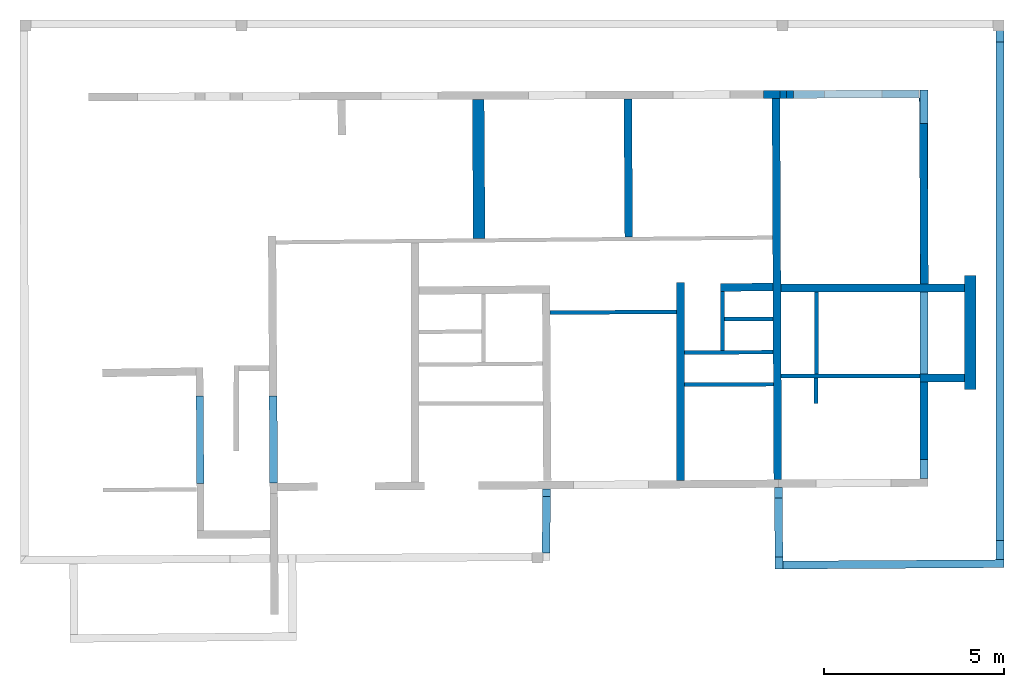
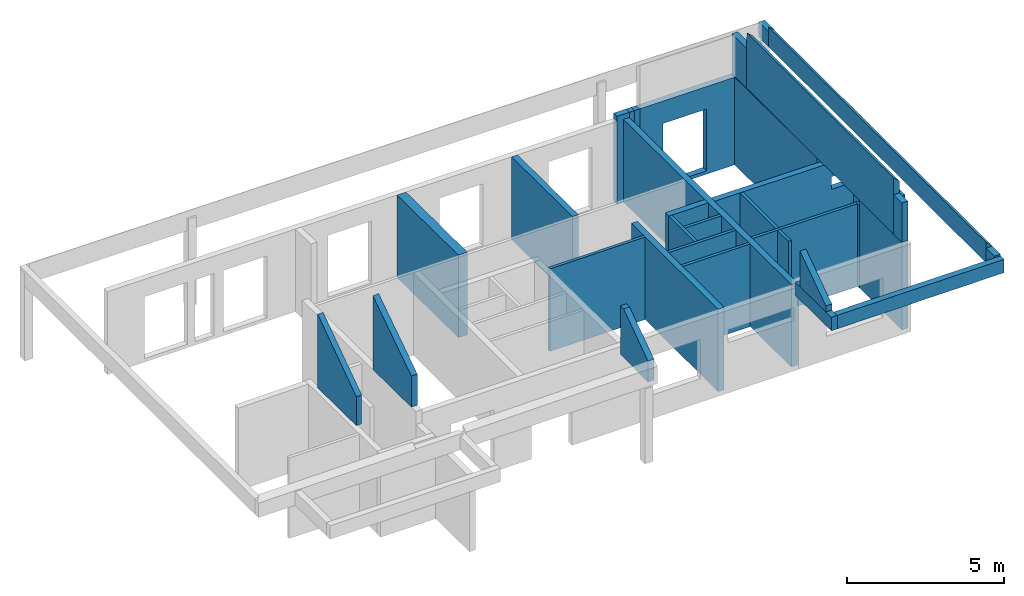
# One storey, part 2 of 3: 34 walls, 4 openings.
"""IFC2X3 building model written with IfcOpenShell, lengths in centimetres."""

from ifc_helpers import new_model, entity, si_unit, converted_unit, direction, frame, frame_2d, origin, origin_2d_with_axis, place, context, subcontext, project, spatial, polyline, rectangle, outline, extrude, clip, halfspace, bounded_halfspace, faceted_brep, material, layer, layer_set, layer_usage, type_object, element, save


model = new_model("IFC2X3")

# Units and contexts
model_context = context("Model", 3, precision=0.001, world=frame((0.0, 0.0, 13090.0)), true_north=direction((6.123233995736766e-17, 1.0)))
body_context = subcontext(model_context, "Body", "Model", "MODEL_VIEW")
ifc_project = project(units=[si_unit("LENGTHUNIT", "METRE", prefix="CENTI"), si_unit("AREAUNIT", "SQUARE_METRE"), si_unit("VOLUMEUNIT", "CUBIC_METRE"), converted_unit("PLANEANGLEUNIT", "DEGREE", entity("IfcPlaneAngleMeasure", 0.017453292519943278), si_unit("PLANEANGLEUNIT", "RADIAN"), dimensions=[0, 0, 0, 0, 0, 0, 0])], contexts=[model_context])

# Site, building, storey
site_placement = place(None, origin())
site = spatial("IfcSite", under=ifc_project, at=site_placement, Name="Default", CompositionType="ELEMENT")
building_placement = place(site_placement, origin())
building = spatial("IfcBuilding", under=site, at=building_placement, Name="e 39 logements et 22 maisons relais", CompositionType="ELEMENT")
storey_placement = place(building_placement, origin())
storey = spatial("IfcBuildingStorey", under=building, at=storey_placement, Name="RDC", CompositionType="ELEMENT", Elevation=0.0)

# Walls
ifc_material = material(Name="Béton - Béton coulé sur place")
ifc_layer_1 = layer(ifc_material, 20.0)
ifc_layer_set_1 = layer_set([ifc_layer_1], Name="Mur de base:BA - 20cm")
wall_type_1 = type_object("IfcWallType", Name="Mur de base:BA - 20cm", PredefinedType="STANDARD", material=ifc_layer_set_1)
wall_1_placement = place(storey_placement, frame((-1005.2895187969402, -553.7673552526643, 340.0), z_axis=(0.0, 0.0, 1.0), x_axis=(-0.006557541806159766, 0.9999784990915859, 0.0)))
element("IfcWall", 1, at=wall_1_placement, inside=storey, type_object=wall_type_1, Name="Mur de base:BA - 20cm", ObjectType="Mur de base:BA - 20cm", context=body_context, shape_type="Brep", body=[
    faceted_brep([(0.005225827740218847, -10.0, 0.0), (242.75768143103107, -10.0, 0.0), (242.75768143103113, -10.0, 285.82953331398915), (0.005225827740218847, -10.0, 112.15266359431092), (0.0, 10.0, 0.0), (0.0, 10.0, 112.1489247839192), (242.75768143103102, 10.0, 285.82953331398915), (242.75768143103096, 10.0, 0.0)], [[[0, 1, 2, 3]], [[4, 5, 6, 7]], [[1, 0, 4, 7]], [[2, 1, 7, 6]], [[3, 2, 6, 5]], [[0, 3, 5, 4]]]),
])
ifc_layer_2 = layer(ifc_material, 22.0)
ifc_layer_set_2 = layer_set([ifc_layer_2], Name="Mur de base:BA - 22cm")
ifc_layer_usage_1 = layer_usage(ifc_layer_set_2, "AXIS2", "POSITIVE", -11.0)
wall_type_2 = type_object("IfcWallType", Name="Mur de base:BA - 22cm", PredefinedType="STANDARD", material=ifc_layer_set_2)
wall_2_placement = place(storey_placement, frame((592.1444161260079, 514.9608615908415, 0.0), z_axis=(0.0, 0.0, 1.0), x_axis=(0.004571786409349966, -0.9999895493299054, 0.0)))
element("IfcWallStandardCase", 2, at=wall_2_placement, inside=storey, type_object=wall_type_2, material=ifc_layer_usage_1, Name="Mur de base:BA - 22cm", ObjectType="Mur de base:BA - 22cm", context=body_context, shape_type="SweptSolid", body=[
    extrude(outline(polyline([(1058.0544231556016, -11.0), (1058.029076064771, 1.7642412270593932), (1058.0107357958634, 11.0), (776.1411497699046, 11.0), (765.1410348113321, 11.0), (537.3363198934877, 11.0), (515.3360899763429, 11.0), (0.016871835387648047, 11.0), (0.0, -11.0), (380.6598510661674, -11.0), (391.65999482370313, -11.0), (512.5179999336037, -11.0), (534.5180433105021, -11.0), (606.8904271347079, -11.0), (617.8904760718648, -11.0), (698.7672502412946, -11.0), (709.767299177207, -11.0), (787.6855359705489, -11.0), (798.6855849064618, -11.0), (1058.0544231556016, -11.0)])), origin(), (0.0, 0.0, 1.0), 320.0),
])
ifc_layer_usage_2 = layer_usage(ifc_layer_set_2, "AXIS2", "NEGATIVE", 11.0)
wall_3_placement = place(storey_placement, frame((326.93676743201, -544.9036630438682, 0.0), z_axis=(0.0, 0.0, 1.0), x_axis=(0.0, 1.0, 0.0)))
element("IfcWallStandardCase", 3, at=wall_3_placement, inside=storey, type_object=wall_type_2, material=ifc_layer_usage_2, Name="Mur de base:BA - 22cm", ObjectType="Mur de base:BA - 22cm", context=body_context, shape_type="SweptSolid", body=[
    extrude(outline(polyline([(549.5182925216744, -11.0), (549.5182925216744, 11.0), (473.1159052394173, 11.0), (462.11566872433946, 11.0), (0.0, 11.0), (0.14426902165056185, -11.0), (260.7447495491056, -11.0), (271.74476343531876, -11.0), (349.66275195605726, -11.0), (360.6627658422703, -11.0), (549.5182925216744, -11.0)])), origin(), (0.0, 0.0, 1.0), 319.99999999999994),
])
ifc_layer_usage_3 = layer_usage(ifc_layer_set_2, "AXIS2", "NEGATIVE", 11.0)
wall_4_placement = place(storey_placement, frame((583.5597868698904, -8.601835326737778, 0.0), z_axis=(0.0, 0.0, 1.0), x_axis=(-0.9999784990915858, -0.006557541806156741, 0.0)))
element("IfcWallStandardCase", 4, at=wall_4_placement, inside=storey, type_object=wall_type_2, material=ifc_layer_usage_3, Name="Mur de base:BA - 22cm", ObjectType="Mur de base:BA - 22cm", context=body_context, shape_type="SweptSolid", body=[
    extrude(outline(polyline([(145.36044951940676, -11.0), (145.50471854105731, 11.0), (134.50448202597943, 11.0), (0.043687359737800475, 11.0), (0.0, -11.0), (145.36044951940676, -11.0)])), origin(), (0.0, 0.0, 1.0), 319.99999999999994),
])

# Wall, opening
ifc_layer_usage_4 = layer_usage(ifc_layer_set_2, "AXIS2", "POSITIVE", -11.0)
wall_5_placement = place(storey_placement, frame((605.5003077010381, -11.319553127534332, 0.0)))
wall_5 = element("IfcWallStandardCase", 5, at=wall_5_placement, inside=storey, type_object=wall_type_2, material=ifc_layer_usage_4, Name="Mur de base:BA - 22cm", ObjectType="Mur de base:BA - 22cm", context=body_context, shape_type="SweptSolid", body=[
    extrude(outline(polyline([(509.1304382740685, -11.0), (509.1304382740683, 11.0), (409.4789938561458, 11.0), (387.47852082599, 11.0), (0.0, 11.0), (0.10058035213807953, -11.0), (92.89748416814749, -11.0), (103.89748416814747, -11.0), (509.1304382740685, -11.0)])), origin(), (0.0, 0.0, 1.0), 319.99999999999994),
])
opening_1_placement = place(wall_5_placement, frame((-605.5003077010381, 11.319553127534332, 0.0)))
element("IfcOpeningElement", 6, at=opening_1_placement, cuts=wall_5, Name="Mur de base:BA - 22cm", ObjectType="Opening", context=body_context, shape_type="SweptSolid", body=[
    extrude(rectangle(XDim=49.000000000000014, YDim=64.99999999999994, at=origin_2d_with_axis()), frame((1066.9307459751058, -152.71955312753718, 240.5), z_axis=(0.0, 1.0, 0.0), x_axis=(0.0, 0.0, -1.0)), (0.0, 0.0, 1.0), 304.8),
])

ifc_layer_usage_5 = layer_usage(ifc_layer_set_2, "AXIS2", "NEGATIVE", 11.0)
wall_6_placement = place(storey_placement, frame((1114.630745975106, -261.1218873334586, 0.0), z_axis=(0.0, 0.0, 1.0), x_axis=(-1.0, 0.0, 0.0)))
wall_6 = element("IfcWallStandardCase", 7, at=wall_6_placement, inside=storey, type_object=wall_type_2, material=ifc_layer_usage_5, Name="Mur de base:BA - 22cm", ObjectType="Mur de base:BA - 22cm", context=body_context, shape_type="SweptSolid", body=[
    extrude(rectangle(XDim=122.49999999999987, YDim=21.99999999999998, at=frame_2d((61.249999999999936, 0.0), x_axis=(-1.0, 0.0))), origin(), (0.0, 0.0, 1.0), 319.99999999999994),
])
opening_2_placement = place(wall_6_placement, frame((1114.630745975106, -261.1218873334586, 0.0), z_axis=(0.0, 0.0, 1.0), x_axis=(-1.0, 0.0, 0.0)))
element("IfcOpeningElement", 8, at=opening_2_placement, cuts=wall_6, Name="Mur de base:BA - 22cm", ObjectType="Opening", context=body_context, shape_type="SweptSolid", body=[
    extrude(rectangle(XDim=39.000000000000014, YDim=60.0, at=frame_2d((1.0835776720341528e-13, 0.0), x_axis=(0.0, 1.0))), frame((1069.7307459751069, -97.72188733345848, 234.50000000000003), z_axis=(0.0, -1.0, 0.0), x_axis=(-1.0, 0.0, 0.0)), (0.0, 0.0, 1.0), 304.8),
])

# Walls
ifc_layer_usage_6 = layer_usage(ifc_layer_set_2, "AXIS2", "POSITIVE", -11.0)
wall_7_placement = place(storey_placement, frame((1003.4066515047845, -272.1218873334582, 0.0), z_axis=(0.0, 0.0, 1.0), x_axis=(0.0, -1.0, 0.0)))
element("IfcWallStandardCase", 9, at=wall_7_placement, inside=storey, type_object=wall_type_2, material=ifc_layer_usage_6, Name="Mur de base:BA - 22cm", ObjectType="Mur de base:BA - 22cm", context=body_context, shape_type="SweptSolid", body=[
    extrude(outline(polyline([(268.3457007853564, -11.0), (268.20143176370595, 11.0), (0.0, 11.0), (0.0, -11.0), (268.3457007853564, -11.0)])), origin(), (0.0, 0.0, 1.0), 339.99999999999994),
])
ifc_layer_usage_7 = layer_usage(ifc_layer_set_2, "AXIS2", "NEGATIVE", 11.0)
wall_8_placement = place(storey_placement, frame((1000.4454185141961, 538.5364169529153, 0.0), z_axis=(0.0, 0.0, 1.0), x_axis=(0.006557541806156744, -0.9999784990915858, 0.0)))
element("IfcWallStandardCase", 10, at=wall_8_placement, inside=storey, type_object=wall_type_2, material=ifc_layer_usage_7, Name="Mur de base:BA - 22cm", ObjectType="Mur de base:BA - 22cm", context=body_context, shape_type="SweptSolid", body=[
    extrude(outline(polyline([(538.7954217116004, -11.0), (538.939690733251, 11.0), (0.0605592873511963, 11.0), (0.0, -11.0), (22.000083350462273, -11.0), (538.7954217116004, -11.0)])), origin(), (0.0, 0.0, 1.0), 339.99999999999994),
])
ifc_layer_usage_8 = layer_usage(ifc_layer_set_2, "AXIS2", "NEGATIVE", 11.0)
wall_9_placement = place(storey_placement, frame((183.49797387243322, 130.35240798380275, 0.0), z_axis=(0.0, 0.0, 1.0), x_axis=(-0.006557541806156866, 0.9999784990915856, 0.0)))
element("IfcWallStandardCase", 11, at=wall_9_placement, inside=storey, type_object=wall_type_2, material=ifc_layer_usage_8, Name="Mur de base:BA - 22cm", ObjectType="Mur de base:BA - 22cm", context=body_context, shape_type="SweptSolid", body=[
    extrude(outline(polyline([(383.01354977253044, -11.0), (383.0741090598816, 11.0), (0.0, 11.0), (0.06878747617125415, -11.0), (383.01354977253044, -11.0)])), origin(), (0.0, 0.0, 1.0), 319.99999999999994),
])
wall_10_placement = place(storey_placement, frame((-44.57384320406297, -569.3644058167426, 290.0), z_axis=(0.0, 0.0, 1.0), x_axis=(-0.007799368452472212, -0.9999695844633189, 0.0)))
element("IfcWall", 12, at=wall_10_placement, inside=storey, type_object=wall_type_2, Name="Mur de base:BA - 22cm", ObjectType="Mur de base:BA - 22cm", context=body_context, shape_type="Brep", body=[
    faceted_brep([(176.7790399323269, -11.0, 0.0), (176.7790399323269, -11.0, 81.55899459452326), (19.90385021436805, -11.0, 188.40368259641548), (0.0, -11.0, 188.40368259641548), (0.0, -11.0, 0.0), (176.46316342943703, 11.0, 0.0), (0.0, 11.0, 0.0), (0.0, 11.0, 188.40368259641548), (19.903850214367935, 11.0, 188.40368259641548), (176.46316342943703, 11.0, 81.77413203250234), (176.46316342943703, 11.0, 81.63918524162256)], [[[0, 1, 2, 3, 4]], [[5, 6, 7, 8, 9, 10]], [[1, 0, 5, 10, 9]], [[0, 4, 6, 5]], [[2, 1, 9, 8]], [[4, 3, 7, 6]], [[3, 2, 8, 7]]]),
])
wall_11_placement = place(storey_placement, frame((598.8890689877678, -564.9085084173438, 290.0), z_axis=(0.0, 0.0, 1.0), x_axis=(0.006557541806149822, -0.9999784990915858, 0.0)))
element("IfcWall", 13, at=wall_11_placement, inside=storey, type_object=wall_type_2, Name="Mur de base:BA - 22cm", ObjectType="Mur de base:BA - 22cm", context=body_context, shape_type="Brep", body=[
    faceted_brep([(0.14011320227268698, -11.0, 50.0), (0.14011320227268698, -11.0, 30.0), (0.1401132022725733, -11.0, 0.0), (226.17995219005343, -11.0, 0.0), (226.17995219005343, -11.0, 52.0), (192.18746504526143, -11.0, 52.0), (29.299922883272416, -11.0, 52.0), (0.0057484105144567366, -11.0, 52.0), (0.0057484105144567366, -11.0, 50.0), (0.1401132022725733, 11.0, 0.0), (0.14011320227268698, 11.0, 50.0), (0.0, 11.0, 50.0), (0.0, 11.0, 52.0), (29.299922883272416, 11.0, 52.0), (192.18746504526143, 11.0, 52.0), (204.1835263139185, 11.0, 52.0), (226.18352660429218, 11.0, 52.0), (226.18352660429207, 11.0, 0.0), (204.1835263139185, 11.0, 0.0)], [[[0, 1, 2, 3, 4, 5, 6, 7, 8]], [[9, 10, 11, 12, 13, 14, 15, 16, 17, 18]], [[3, 2, 9, 18, 17]], [[7, 6, 5, 4, 16, 15, 14, 13, 12]], [[8, 11, 10, 0]], [[0, 10, 9, 2, 1]], [[8, 7, 12, 11]], [[4, 3, 17, 16]]]),
])
ifc_layer_usage_9 = layer_usage(ifc_layer_set_2, "AXIS2", "POSITIVE", -11.0)
wall_12_placement = place(storey_placement, frame((1213.8343840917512, 732.5252742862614, 290.0), z_axis=(0.0, 0.0, 1.0), x_axis=(0.0, -1.0, 0.0)))
element("IfcWallStandardCase", 14, at=wall_12_placement, inside=storey, type_object=wall_type_2, material=ifc_layer_usage_9, Name="Mur de base:BA - 22cm", ObjectType="Mur de base:BA - 22cm", context=body_context, shape_type="SweptSolid", body=[
    extrude(rectangle(XDim=60.70000000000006, YDim=22.000000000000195, at=frame_2d((30.35000000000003, 5.417888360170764e-14), x_axis=(-1.0, 0.0))), origin(), (0.0, 0.0, 1.0), 58.3023663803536),
])
ifc_layer_usage_10 = layer_usage(ifc_layer_set_2, "AXIS2", "POSITIVE", -11.0)
wall_13_placement = place(storey_placement, frame((1003.4066515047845, 538.55925856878, 340.0), z_axis=(0.0, 0.0, 1.0), x_axis=(0.0, -1.0, 0.0)))
element("IfcWallStandardCase", 15, at=wall_13_placement, inside=storey, type_object=wall_type_2, material=ifc_layer_usage_10, Name="Mur de base:BA - 22cm", ObjectType="Mur de base:BA - 22cm", context=body_context, shape_type="SweptSolid", body=[
    extrude(outline(polyline([(93.85140978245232, -11.0), (93.85140978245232, 11.0), (0.0, 11.0), (0.08370822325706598, -11.0), (22.083867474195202, -11.0), (93.85140978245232, -11.0)])), origin(), (0.0, 0.0, 1.0), 154.78998250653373),
])
ifc_layer_usage_11 = layer_usage(ifc_layer_set_2, "AXIS2", "POSITIVE", -11.0)
wall_14_placement = place(storey_placement, frame((1003.4066515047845, 444.7078487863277, 340.0), z_axis=(0.0, 0.0, 1.0), x_axis=(0.0, -1.0, 0.0)))
element("IfcWallStandardCase", 16, at=wall_14_placement, inside=storey, type_object=wall_type_2, material=ifc_layer_usage_11, Name="Mur de base:BA - 22cm", ObjectType="Mur de base:BA - 22cm", context=body_context, shape_type="Clipping", body=[
    clip(clip(extrude(rectangle(XDim=932.3035389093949, YDim=22.000000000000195, at=frame_2d((466.15176945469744, 0.0), x_axis=(-1.0, 0.0))), origin(), (0.0, 0.0, 1.0), 217.6824259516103), bounded_halfspace(frame((3.098480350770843, -11.0, 215.86675350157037), z_axis=(-0.0014533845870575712, 0.6684036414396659, 0.7437973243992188), x_axis=(0.6812174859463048, 0.5451818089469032, -0.48858932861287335)), False, frame((3.098480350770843, -11.0, 215.86675350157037)), polyline([(0.0, 0.0), (185.39428916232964, 0.0), (196.39428916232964, 0.0), (588.5183158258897, 0.0), (599.5183158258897, 0.0), (929.205058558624, 0.0), (929.205058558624, 22.0), (-3.098480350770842, 22.0), (-3.098480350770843, 2.5015887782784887), (0.0, 0.0)]))), bounded_halfspace(frame((0.0, -11.0, 197.97985012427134), z_axis=(0.0, 0.0, 1.0), x_axis=(0.0, 1.0, 0.0)), False, frame((0.0, -11.0, 197.97985012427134)), polyline([(0.0, 0.0), (3.098480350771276, 0.0), (0.0, 2.501588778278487), (0.0, 0.0)]))),
])
ifc_layer_usage_12 = layer_usage(ifc_layer_set_2, "AXIS2", "POSITIVE", -11.0)
wall_15_placement = place(storey_placement, frame((1003.4066515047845, -487.59569012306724, 340.0), z_axis=(0.0, 0.0, 1.0), x_axis=(0.0, -1.0, 0.0)))
element("IfcWallStandardCase", 17, at=wall_15_placement, inside=storey, type_object=wall_type_2, material=ifc_layer_usage_12, Name="Mur de base:BA - 22cm", ObjectType="Mur de base:BA - 22cm", context=body_context, shape_type="SweptSolid", body=[
    extrude(outline(polyline([(52.871897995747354, -11.0), (52.727628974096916, 11.0), (0.0, 11.0), (0.0, -11.0), (52.871897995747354, -11.0)])), origin(), (0.0, 0.0, 1.0), 151.86522346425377),
])
wall_16_placement = place(storey_placement, frame((-801.7297722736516, -552.4645455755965, 340.0), z_axis=(0.0, 0.0, 1.0), x_axis=(-0.00655754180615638, 0.9999784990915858, 0.0)))
element("IfcWall", 18, at=wall_16_placement, inside=storey, type_object=wall_type_2, Name="Mur de base:BA - 22cm", ObjectType="Mur de base:BA - 22cm", context=body_context, shape_type="Brep", body=[
    faceted_brep([(0.005748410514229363, -11.0, 0.0), (242.21628374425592, -11.0, 0.0), (242.21628374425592, -11.0, 286.3370484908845), (0.005748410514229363, -11.0, 120.78782230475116), (0.0, 11.0, 0.0), (0.0, 11.0, 120.78389330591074), (242.21628374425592, 11.0, 286.3370484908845), (242.21628374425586, 11.0, 0.0)], [[[0, 1, 2, 3]], [[4, 5, 6, 7]], [[1, 0, 4, 7]], [[2, 1, 7, 6]], [[3, 2, 6, 5]], [[0, 3, 5, 4]]]),
])

# Wall, openings
ifc_layer_usage_13 = layer_usage(ifc_layer_set_2, "AXIS2", "NEGATIVE", 11.0)
wall_17_placement = place(storey_placement, frame((641.2901126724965, 526.1395006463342, 0.0), z_axis=(0.0, 0.0, 1.0), x_axis=(0.9999927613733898, 0.003804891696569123, 0.0)))
wall_17 = element("IfcWallStandardCase", 19, at=wall_17_placement, inside=storey, type_object=wall_type_2, material=ifc_layer_usage_13, Name="Mur de base:BA - 22cm", ObjectType="Mur de base:BA - 22cm", context=body_context, shape_type="SweptSolid", body=[
    extrude(outline(polyline([(348.2604759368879, -11.0), (348.19991664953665, 11.0), (0.0, 11.0), (0.0, -11.0), (348.2604759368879, -11.0)])), origin(), (0.0, 0.0, 1.0), 339.99999999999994),
])
opening_3_placement = place(wall_17_placement, frame((-643.2873744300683, -523.6956526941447, 0.0), z_axis=(0.0, 0.0, 1.0), x_axis=(0.9999927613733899, -0.0038048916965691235, 0.0)))
element("IfcOpeningElement", 20, at=opening_3_placement, cuts=wall_17, Name="Mur de base:BA - 22cm", ObjectType="Opening", context=body_context, shape_type="SweptSolid", body=[
    extrude(rectangle(XDim=240.0, YDim=159.0, at=frame_2d((0.0, 4.973799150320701e-14), x_axis=(1.0, 0.0))), frame((807.2972300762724, 385.3701207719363, 133.0), z_axis=(-0.0038048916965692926, 0.9999927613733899, 0.0), x_axis=(0.0, 0.0, -1.0)), (0.0, 0.0, 1.0), 304.79999999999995),
])
opening_4_placement = place(wall_17_placement, frame((-643.2873744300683, -523.6956526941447, 0.0), z_axis=(0.0, 0.0, 1.0), x_axis=(0.9999927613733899, -0.0038048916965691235, 0.0)))
element("IfcOpeningElement", 21, at=opening_4_placement, cuts=wall_17, Name="Mur de base:BA - 22cm", ObjectType="Opening", context=body_context, shape_type="SweptSolid", body=[
    extrude(rectangle(XDim=239.99999999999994, YDim=159.0, at=frame_2d((-1.4210854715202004e-14, 4.973799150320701e-14), x_axis=(1.0, 0.0))), frame((806.5091670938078, 385.36712225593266, 133.0), z_axis=(-0.0038048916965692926, 0.9999927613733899, 0.0), x_axis=(0.0, 0.0, -1.0)), (0.0, 0.0, 1.0), 304.7999999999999),
])

# Walls
ifc_layer_usage_14 = layer_usage(ifc_layer_set_2, "AXIS2", "NEGATIVE", 11.0)
wall_18_placement = place(storey_placement, frame((557.690717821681, 525.8214117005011, 0.0), z_axis=(0.0, 0.0, 1.0), x_axis=(0.9999927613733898, 0.003804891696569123, 0.0)))
element("IfcWallStandardCase", 22, at=wall_18_placement, inside=storey, type_object=wall_type_2, material=ifc_layer_usage_14, Name="Mur de base:BA - 22cm", ObjectType="Mur de base:BA - 22cm", context=body_context, shape_type="SweptSolid", body=[
    extrude(rectangle(XDim=45.95673672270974, YDim=21.999999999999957, at=frame_2d((22.97836836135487, 8.881784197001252e-15), x_axis=(-1.0, 0.0))), origin(), (0.0, 0.0, 1.0), 339.99999999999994),
])
ifc_layer_usage_15 = layer_usage(ifc_layer_set_2, "AXIS2", "NEGATIVE", 11.0)
wall_19_placement = place(storey_placement, frame((603.6471218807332, 525.9962721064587, 0.0), z_axis=(0.0, 0.0, 1.0), x_axis=(0.9999927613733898, 0.003804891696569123, 0.0)))
element("IfcWallStandardCase", 23, at=wall_19_placement, inside=storey, type_object=wall_type_2, material=ifc_layer_usage_15, Name="Mur de base:BA - 22cm", ObjectType="Mur de base:BA - 22cm", context=body_context, shape_type="SweptSolid", body=[
    extrude(rectangle(XDim=17.700000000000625, YDim=21.999999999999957, at=frame_2d((8.850000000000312, 8.881784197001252e-16), x_axis=(-1.0, 0.0))), origin(), (0.0, 0.0, 1.0), 339.99999999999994),
])
ifc_layer_usage_16 = layer_usage(ifc_layer_set_2, "AXIS2", "NEGATIVE", 11.0)
wall_20_placement = place(storey_placement, frame((621.3469937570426, 526.0636186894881, 0.0), z_axis=(0.0, 0.0, 1.0), x_axis=(0.9999927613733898, 0.003804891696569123, 0.0)))
element("IfcWallStandardCase", 24, at=wall_20_placement, inside=storey, type_object=wall_type_2, material=ifc_layer_usage_16, Name="Mur de base:BA - 22cm", ObjectType="Mur de base:BA - 22cm", context=body_context, shape_type="SweptSolid", body=[
    extrude(rectangle(XDim=19.943263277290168, YDim=21.999999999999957, at=frame_2d((9.971631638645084, -4.263256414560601e-14), x_axis=(-1.0, 0.0))), origin(), (0.0, 0.0, 1.0), 339.99999999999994),
])
ifc_layer_usage_17 = layer_usage(ifc_layer_set_2, "AXIS2", "POSITIVE", -11.0)
wall_21_placement = place(storey_placement, frame((1213.8343840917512, 671.8252742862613, 290.0), z_axis=(0.0, 0.0, 1.0), x_axis=(0.0, -1.0, 0.0)))
element("IfcWallStandardCase", 25, at=wall_21_placement, inside=storey, type_object=wall_type_2, material=ifc_layer_usage_17, Name="Mur de base:BA - 22cm", ObjectType="Mur de base:BA - 22cm", context=body_context, shape_type="Clipping", body=[
    clip(extrude(rectangle(XDim=1383.8573417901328, YDim=22.000000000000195, at=frame_2d((691.9286708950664, -5.950795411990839e-14), x_axis=(-1.0, 0.0))), origin(), (0.0, 0.0, 1.0), 79.0228734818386), bounded_halfspace(frame((0.0, -11.0, 76.31880764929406), z_axis=(-0.001453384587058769, 0.6684036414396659, 0.7437973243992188), x_axis=(0.6812174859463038, 0.5451818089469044, -0.48858932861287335)), False, frame((0.0, -11.0, 76.31880764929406)), polyline([(0.0, 0.0), (1383.8573417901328, 0.0), (1383.8573417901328, 22.0), (0.0, 22.0), (0.0, 0.0)]))),
])
ifc_layer_usage_18 = layer_usage(ifc_layer_set_2, "AXIS2", "POSITIVE", -11.0)
wall_22_placement = place(storey_placement, frame((1213.8343840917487, -712.0320675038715, 290.0), z_axis=(0.0, 0.0, 1.0), x_axis=(0.0, -1.0, 0.0)))
element("IfcWallStandardCase", 26, at=wall_22_placement, inside=storey, type_object=wall_type_2, material=ifc_layer_usage_18, Name="Mur de base:BA - 22cm", ObjectType="Mur de base:BA - 22cm", context=body_context, shape_type="SweptSolid", body=[
    extrude(outline(polyline([(53.19999999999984, -11.0), (53.05930554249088, 11.0), (0.0, 11.0), (0.0, -11.0), (53.19999999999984, -11.0)])), origin(), (0.0, 0.0, 1.0), 58.3023663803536),
])
ifc_layer_usage_19 = layer_usage(ifc_layer_set_2, "AXIS2", "POSITIVE", -11.0)
wall_23_placement = place(storey_placement, frame((599.0812044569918, -594.2078013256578, 342.0), z_axis=(0.0, 0.0, 1.0), x_axis=(0.006557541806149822, -0.9999784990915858, 0.0)))
element("IfcWallStandardCase", 27, at=wall_23_placement, inside=storey, type_object=wall_type_2, material=ifc_layer_usage_19, Name="Mur de base:BA - 22cm", ObjectType="Mur de base:BA - 22cm", context=body_context, shape_type="Clipping", body=[
    clip(extrude(rectangle(XDim=162.88754216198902, YDim=22.00000000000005, at=frame_2d((81.44377108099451, -7.993605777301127e-15), x_axis=(-1.0, 0.0))), origin(), (0.0, 0.0, 1.0), 138.3704360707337), halfspace(frame((0.0, -11.0, 138.3704360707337), z_axis=(0.5763945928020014, 0.0, 0.8171715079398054), x_axis=(0.0, 1.0, 0.0)), False)),
])
ifc_layer_usage_20 = layer_usage(ifc_layer_set_2, "AXIS2", "POSITIVE", -11.0)
wall_24_placement = place(storey_placement, frame((1224.904729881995, -776.0911481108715, 290.0), z_axis=(0.0, 0.0, 1.0), x_axis=(-0.9999795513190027, -0.006395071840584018, 0.0)))
element("IfcWallStandardCase", 28, at=wall_24_placement, inside=storey, type_object=wall_type_2, material=ifc_layer_usage_20, Name="Mur de base:BA - 22cm", ObjectType="Mur de base:BA - 22cm", context=body_context, shape_type="SweptSolid", body=[
    extrude(outline(polyline([(613.6191573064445, -11.0), (613.6155828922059, 11.0), (0.14069445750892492, 11.0), (0.0, -11.0), (22.000449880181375, -11.0), (613.6191573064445, -11.0)])), origin(), (0.0, 0.0, 1.0), 51.99999999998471),
])
ifc_layer_3 = layer(ifc_material, 33.0)
ifc_layer_set_3 = layer_set([ifc_layer_3], Name="Mur de base:BA - 33cm")
ifc_layer_usage_21 = layer_usage(ifc_layer_set_3, "AXIS2", "POSITIVE", -16.5)
wall_type_3 = type_object("IfcWallType", Name="Mur de base:BA - 33cm", PredefinedType="STANDARD", material=ifc_layer_set_3)
wall_25_placement = place(storey_placement, frame((-234.1504059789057, 511.85386017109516, 0.0), z_axis=(0.0, 0.0, 1.0), x_axis=(0.006557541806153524, -0.9999784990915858, 0.0)))
element("IfcWallStandardCase", 29, at=wall_25_placement, inside=storey, type_object=wall_type_3, material=ifc_layer_usage_21, Name="Mur de base:BA - 33cm", ObjectType="Mur de base:BA - 33cm", context=body_context, shape_type="SweptSolid", body=[
    extrude(outline(polyline([(385.5472055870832, -16.499999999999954), (385.4440243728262, 16.500000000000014), (0.09083893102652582, 16.50000000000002), (0.0, -16.500000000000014), (385.5472055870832, -16.499999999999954)])), origin(), (0.0, 0.0, 1.0), 319.99999999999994),
])
ifc_layer_usage_22 = layer_usage(ifc_layer_set_3, "AXIS2", "NEGATIVE", 16.5)
wall_26_placement = place(storey_placement, frame((1131.1307459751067, 24.13210343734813, 0.0), z_axis=(0.0, 0.0, 1.0), x_axis=(0.0, -1.0, 0.0)))
element("IfcWallStandardCase", 30, at=wall_26_placement, inside=storey, type_object=wall_type_3, material=ifc_layer_usage_22, Name="Mur de base:BA - 33cm", ObjectType="Mur de base:BA - 33cm", context=body_context, shape_type="SweptSolid", body=[
    extrude(rectangle(XDim=316.6952975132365, YDim=32.99999999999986, at=frame_2d((158.34764875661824, 0.0), x_axis=(-1.0, 0.0))), origin(), (0.0, 0.0, 1.0), 319.99999999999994),
])
ifc_layer_4 = layer(ifc_material, 11.0)
ifc_layer_set_4 = layer_set([ifc_layer_4], Name="Mur de base:cloison 11cm")
ifc_layer_usage_23 = layer_usage(ifc_layer_set_4, "AXIS2", "POSITIVE", -5.5)
wall_type_4 = type_object("IfcWallType", Name="Mur de base:cloison 11cm", PredefinedType="STANDARD", material=ifc_layer_set_4)
wall_27_placement = place(storey_placement, frame((315.9728339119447, -77.28763954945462, 0.0), z_axis=(0.0, 0.0, 1.0), x_axis=(-0.9999784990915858, -0.006557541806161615, 0.0)))
element("IfcWallStandardCase", 31, at=wall_27_placement, inside=storey, type_object=wall_type_4, material=ifc_layer_usage_23, Name="Mur de base:cloison 11cm", ObjectType="Mur de base:cloison 11cm", context=body_context, shape_type="SweptSolid", body=[
    extrude(outline(polyline([(350.51445412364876, -5.500000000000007), (350.51445412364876, 5.499999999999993), (0.07213451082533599, 5.499999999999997), (0.0, -5.500000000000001), (350.51445412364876, -5.500000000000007)])), origin(), (0.0, 0.0, 1.0), 319.99999999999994),
])
ifc_layer_usage_24 = layer_usage(ifc_layer_set_4, "AXIS2", "NEGATIVE", 5.5)
wall_28_placement = place(storey_placement, frame((443.6303297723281, -20.483617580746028, 0.0), z_axis=(0.0, 0.0, 1.0), x_axis=(0.0, -1.0, 0.0)))
element("IfcWallStandardCase", 32, at=wall_28_placement, inside=storey, type_object=wall_type_4, material=ifc_layer_usage_24, Name="Mur de base:cloison 11cm", ObjectType="Mur de base:cloison 11cm", context=body_context, shape_type="SweptSolid", body=[
    extrude(outline(polyline([(163.59807688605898, -5.499999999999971), (163.58059841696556, 5.500000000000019), (82.70407683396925, 5.500000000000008), (71.70406294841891, 5.499999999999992), (0.0, 5.499999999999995), (0.07213451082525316, -5.4999999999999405), (163.59807688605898, -5.499999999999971)])), origin(), (0.0, 0.0, 1.0), 319.99999999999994),
])
ifc_layer_usage_25 = layer_usage(ifc_layer_set_4, "AXIS2", "POSITIVE", -5.5)
wall_29_placement = place(storey_placement, frame((337.92802820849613, -189.74091803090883, 0.0), z_axis=(0.0, 0.0, 1.0), x_axis=(0.9999987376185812, 0.0015889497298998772, 0.0)))
element("IfcWallStandardCase", 33, at=wall_29_placement, inside=storey, type_object=wall_type_4, material=ifc_layer_usage_25, Name="Mur de base:cloison 11cm", ObjectType="Mur de base:cloison 11cm", context=body_context, shape_type="SweptSolid", body=[
    extrude(outline(polyline([(246.45297926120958, -5.499999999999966), (246.4201677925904, 5.500000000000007), (111.21118117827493, 5.500000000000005), (100.21116729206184, 5.500000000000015), (0.017478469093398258, 5.500000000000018), (0.0, -5.499999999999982), (246.45297926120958, -5.499999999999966)])), origin(), (0.0, 0.0, 1.0), 319.99999999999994),
])
ifc_layer_usage_26 = layer_usage(ifc_layer_set_4, "AXIS2", "POSITIVE", -5.5)
wall_30_placement = place(storey_placement, frame((449.12159075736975, -97.68770135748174, 0.0), z_axis=(0.0, 0.0, 1.0), x_axis=(0.9999987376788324, 0.0015889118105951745, 0.0)))
element("IfcWallStandardCase", 34, at=wall_30_placement, inside=storey, type_object=wall_type_4, material=ifc_layer_usage_26, Name="Mur de base:cloison 11cm", ObjectType="Mur de base:cloison 11cm", context=body_context, shape_type="SweptSolid", body=[
    extrude(outline(polyline([(134.83923480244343, -5.5), (134.80642291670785, 5.4999999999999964), (0.01747805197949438, 5.499999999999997), (0.0, -5.499999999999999), (134.83923480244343, -5.5)])), origin(), (0.0, 0.0, 1.0), 319.99999999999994),
])
ifc_layer_usage_27 = layer_usage(ifc_layer_set_4, "AXIS2", "NEGATIVE", 5.5)
wall_31_placement = place(storey_placement, frame((702.8977918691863, -331.22561282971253, 0.0), z_axis=(0.0, 0.0, 1.0), x_axis=(0.0, 1.0, 0.0)))
element("IfcWallStandardCase", 35, at=wall_31_placement, inside=storey, type_object=wall_type_4, material=ifc_layer_usage_27, Name="Mur de base:cloison 11cm", ObjectType="Mur de base:cloison 11cm", context=body_context, shape_type="SweptSolid", body=[
    extrude(rectangle(XDim=70.10372549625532, YDim=11.000000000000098, at=frame_2d((35.05186274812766, 0.0), x_axis=(-1.0, 0.0))), origin(), (0.0, 0.0, 1.0), 319.99999999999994),
])
ifc_layer_usage_28 = layer_usage(ifc_layer_set_4, "AXIS2", "NEGATIVE", 5.5)
wall_32_placement = place(storey_placement, frame((703.8977918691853, -250.12188733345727, 0.0), z_axis=(0.0, 0.0, 1.0), x_axis=(0.0, 1.0, 0.0)))
element("IfcWallStandardCase", 36, at=wall_32_placement, inside=storey, type_object=wall_type_4, material=ifc_layer_usage_28, Name="Mur de base:cloison 11cm", ObjectType="Mur de base:cloison 11cm", context=body_context, shape_type="SweptSolid", body=[
    extrude(rectangle(XDim=227.80233420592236, YDim=11.0000000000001, at=frame_2d((113.90116710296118, 4.884981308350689e-15), x_axis=(-1.0, 0.0))), origin(), (0.0, 0.0, 1.0), 319.99999999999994),
])
ifc_layer_usage_29 = layer_usage(ifc_layer_set_4, "AXIS2", "NEGATIVE", 5.5)
wall_33_placement = place(storey_placement, frame((992.1307459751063, -255.6218873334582, 0.0), z_axis=(0.0, 0.0, 1.0), x_axis=(-1.0, 0.0, 0.0)))
element("IfcWallStandardCase", 37, at=wall_33_placement, inside=storey, type_object=wall_type_4, material=ifc_layer_usage_29, Name="Mur de base:cloison 11cm", ObjectType="Mur de base:cloison 11cm", context=body_context, shape_type="SweptSolid", body=[
    extrude(outline(polyline([(385.4883834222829, -5.499999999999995), (385.43809324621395, 5.499999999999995), (294.7329541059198, 5.499999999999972), (283.7329541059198, 5.49999999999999), (0.0, 5.499999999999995), (0.0, -5.499999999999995), (282.7329541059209, -5.500000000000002), (293.732954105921, -5.50000000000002), (385.4883834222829, -5.499999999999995)])), origin(), (0.0, 0.0, 1.0), 320.0),
])
ifc_layer_usage_30 = layer_usage(ifc_layer_set_4, "AXIS2", "POSITIVE", -5.5)
wall_34_placement = place(storey_placement, frame((337.92802820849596, -278.65892043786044, 0.0), z_axis=(0.0, 0.0, 1.0), x_axis=(0.9999987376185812, 0.0015889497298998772, 0.0)))
element("IfcWallStandardCase", 38, at=wall_34_placement, inside=storey, type_object=wall_type_4, material=ifc_layer_usage_30, Name="Mur de base:cloison 11cm", ObjectType="Mur de base:cloison 11cm", context=body_context, shape_type="SweptSolid", body=[
    extrude(outline(polyline([(246.8594951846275, -5.499999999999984), (246.82668371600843, 5.5000000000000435), (0.017478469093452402, 5.500000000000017), (0.0, -5.50000000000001), (246.8594951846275, -5.499999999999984)])), origin(), (0.0, 0.0, 1.0), 319.99999999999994),
])

save(model, "model.ifc")
